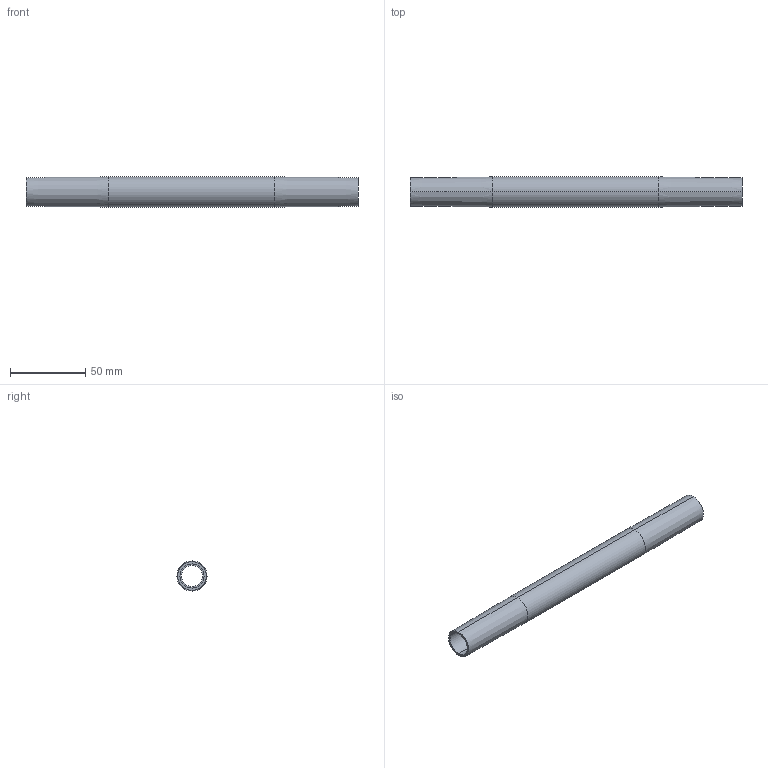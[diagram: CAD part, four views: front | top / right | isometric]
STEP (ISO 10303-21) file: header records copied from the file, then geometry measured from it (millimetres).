
FILE_DESCRIPTION (( 'STEP AP203' ), '1' );
FILE_NAME ('084.800.020.STEP', '2013-02-01T09:25:10', ( 'Alusic' ), ( 'Alusic' ), 'SwSTEP 2.0', 'SolidWorks 2011', '' );
FILE_SCHEMA (( 'CONFIG_CONTROL_DESIGN' ));
Length unit declared in the file: millimetre
Products named in the file (1): 084.800.020
Bounding box: 220 x 20 x 20 mm (x, y, z)
Volume: 30722.2 mm3; surface area: 23962.8 mm2
Topology: 1 solids, 1 shells, 16 faces, 32 edges, 20 vertices
Faces by surface type: cylinder 8, cone 4, plane 4
Entity records: 505 total; most frequent: DIRECTION 86, CARTESIAN_POINT 69, ORIENTED_EDGE 64, AXIS2_PLACEMENT_3D 37, EDGE_CURVE 32, EDGE_LOOP 20, VERTEX_POINT 20, CIRCLE 20
